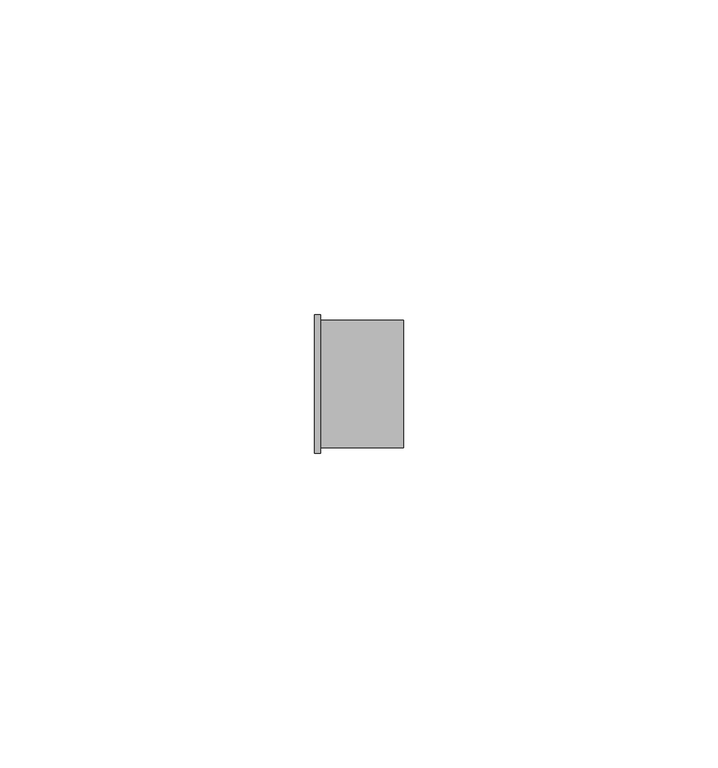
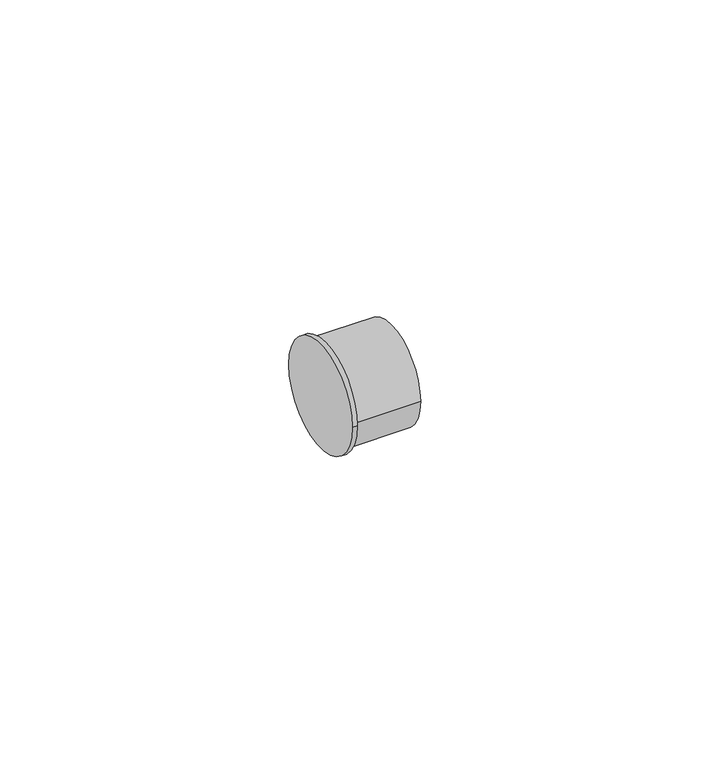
"""IFC4 building model written with IfcOpenShell, lengths in millimetres: pipe fitting geometry, Bucha de redução reta - Soldada - CU : Padrão."""

from ifc_helpers import new_model, si_unit, frame, origin, place, context, project, spatial, circle_curve, source, transform, mapped, element, save
from ifc_brep_helpers import plane_surface, cylinder_surface, advanced_brep


def pipe_fitting_b289f7a4(model_context):
    return source(origin(), model_context, "Body", "AdvancedBrep", [
        advanced_brep(
        [(0.0, -11.01, 0.0), (0.0, 11.01, 0.0), (1.0, -11.01, 0.0), (1.0, 11.01, 0.0), (1.0, -10.1155, 0.0), (1.0, 10.1155, 0.0), (14.1535, -10.1155, 0.0), (14.1535, 10.1155, 0.0)],
        [
            (0, 1, circle_curve(frame((0.0, 0.0, 0.0), z_axis=(-1.0, 0.0, 0.0), x_axis=(0.0, 1.0, 0.0)), 11.01)),
            (1, 0, circle_curve(frame((0.0, 0.0, 0.0), z_axis=(-1.0, 0.0, 0.0), x_axis=(0.0, 1.0, 0.0)), 11.01)),
            (2, 3, circle_curve(frame((1.0, 0.0, 0.0), z_axis=(1.0, 0.0, 0.0), x_axis=(0.0, 1.0, 0.0)), 11.01)),
            (3, 2, circle_curve(frame((1.0, 0.0, 0.0), z_axis=(1.0, 0.0, 0.0), x_axis=(0.0, 1.0, 0.0)), 11.01)),
            (4, 5, circle_curve(frame((1.0, 0.0, 0.0), z_axis=(-1.0, 0.0, 0.0), x_axis=(0.0, 1.0, 0.0)), 10.1155)),
            (5, 4, circle_curve(frame((1.0, 0.0, 0.0), z_axis=(-1.0, 0.0, 0.0), x_axis=(0.0, 1.0, 0.0)), 10.1155)),
            (0, 2),
            (3, 1),
            (6, 7, circle_curve(frame((14.1535, 0.0, 0.0), z_axis=(1.0, 0.0, 0.0), x_axis=(0.0, 1.0, 0.0)), 10.1155)),
            (7, 6, circle_curve(frame((14.1535, 0.0, 0.0), z_axis=(1.0, 0.0, 0.0), x_axis=(0.0, 1.0, 0.0)), 10.1155)),
            (7, 5),
            (4, 6),
        ],
        [
            plane_surface(frame((0.0, 0.0, 0.0), z_axis=(-1.0, 0.0, 0.0), x_axis=(0.0, 0.0, 1.0))),
            plane_surface(frame((1.0, 0.0, 0.0), z_axis=(1.0, 0.0, 0.0), x_axis=(0.0, 0.0, 1.0))),
            cylinder_surface(frame((0.0, 0.0, 0.0), z_axis=(-1.0, 0.0, 0.0), x_axis=(0.0, 1.0, 0.0)), 11.01),
            plane_surface(frame((14.1535, 0.0, 0.0), z_axis=(1.0, 0.0, 0.0), x_axis=(0.0, 0.0, 1.0))),
            cylinder_surface(frame((1.0, 0.0, 0.0), z_axis=(-1.0, 0.0, 0.0), x_axis=(0.0, 1.0, 0.0)), 10.1155),
        ],
        [
            (0, [[1, 2]]),
            (1, [[3, 4], [5, 6]]),
            (2, [[-1, 7, -4, 8]]),
            (2, [[-2, -8, -3, -7]]),
            (3, [[9, 10]]),
            (4, [[-10, 11, -5, 12]]),
            (4, [[-9, -12, -6, -11]]),
        ],
    ),
    ])


if __name__ == "__main__":
    model = new_model("IFC4")
    model_context = context("Model", 3, world=origin())
    ifc_project = project(units=[si_unit("LENGTHUNIT", "METRE", prefix="MILLI")], contexts=[model_context])
    site = spatial("IfcSite", under=ifc_project)
    building = spatial("IfcBuilding", under=site)
    placement = place(None, origin())
    pipe_fitting_shape = pipe_fitting_b289f7a4(model_context)
    element("IfcPipeFitting", 1, ObjectType="Bucha de redução reta - Soldada - CU : Padrão", at=placement, inside=building, context=model_context, shape_type="MappedRepresentation", body=[
        mapped(pipe_fitting_shape, transform((0.0, 0.0, 0.0), x_axis=(1.0, 0.0, 0.0), y_axis=(0.0, 1.0, 0.0), z_axis=(0.0, 0.0, 1.0))),
    ])
    save(model, "model.ifc")
